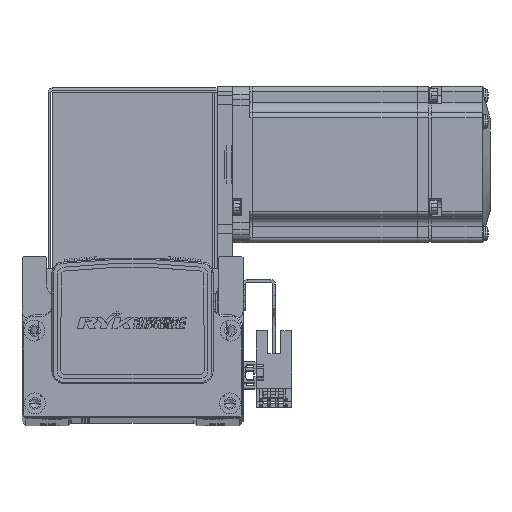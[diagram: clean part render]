
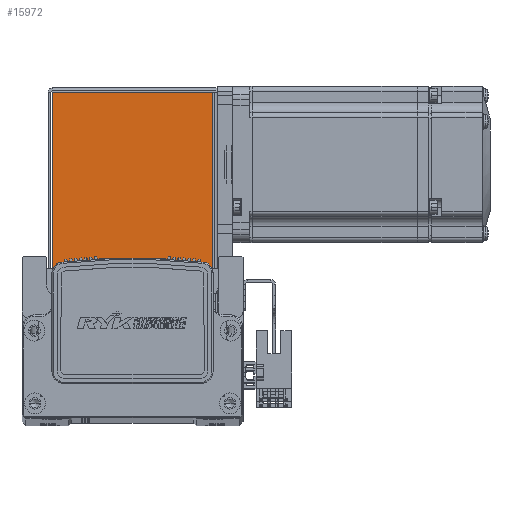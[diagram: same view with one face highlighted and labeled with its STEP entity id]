
A CAD part, top view. The second image highlights one B-rep face of the part: STEP entity #15972.
In plain terms, the highlighted planar face has unit normal (0, 0, 1) as drawn and (0, 0, -1) by its records, which use the part's own axes.
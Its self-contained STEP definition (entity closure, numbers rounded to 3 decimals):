
#8284 = LINE ( 'NONE', #24898, #8289 ) ;
#8289 = VECTOR ( 'NONE', #24889, 1000. ) ;
#8328 = LINE ( 'NONE', #24800, #8338 ) ;
#8338 = VECTOR ( 'NONE', #24808, 1000. ) ;
#9478 = LINE ( 'NONE', #24785, #9504 ) ;
#9504 = VECTOR ( 'NONE', #24791, 1000. ) ;
#9521 = VECTOR ( 'NONE', #24752, 1000. ) ;
#9524 = LINE ( 'NONE', #24733, #9521 ) ;
#9834 = EDGE_CURVE ( 'NONE', #28222, #28259, #9524, .T. ) ;
#9844 = EDGE_CURVE ( 'NONE', #28236, #28224, #9478, .T. ) ;
#9856 = EDGE_CURVE ( 'NONE', #28236, #28259, #8328, .T. ) ;
#9881 = EDGE_CURVE ( 'NONE', #28224, #28222, #8284, .T. ) ;
#12098 = CARTESIAN_POINT ( 'NONE',  ( -30.793, 68.5, -35. ) ) ;
#12142 = CARTESIAN_POINT ( 'NONE',  ( -30.793, 0.737, -35. ) ) ;
#12143 = CARTESIAN_POINT ( 'NONE',  ( 30.763, 68.5, -35. ) ) ;
#12215 = CARTESIAN_POINT ( 'NONE',  ( 30.763, 0.737, -35. ) ) ;
#13959 = EDGE_LOOP ( 'NONE', ( #44644, #44628, #44634, #44606 ) ) ;
#15972 = ADVANCED_FACE ( 'NONE', ( #79009 ), #71571, .F. ) ;
#24733 = CARTESIAN_POINT ( 'NONE',  ( 30.763, 68.5, -35. ) ) ;
#24752 = DIRECTION ( 'NONE',  ( 0., -1., 0. ) ) ;
#24785 = CARTESIAN_POINT ( 'NONE',  ( -30.793, 0., -35. ) ) ;
#24791 = DIRECTION ( 'NONE',  ( 0., 1., 0. ) ) ;
#24800 = CARTESIAN_POINT ( 'NONE',  ( 32.5, 0.737, -35. ) ) ;
#24808 = DIRECTION ( 'NONE',  ( 1., 0., 0. ) ) ;
#24889 = DIRECTION ( 'NONE',  ( 1., 0., 0. ) ) ;
#24898 = CARTESIAN_POINT ( 'NONE',  ( 0., 68.5, -35. ) ) ;
#28222 = VERTEX_POINT ( 'NONE', #12143 ) ;
#28224 = VERTEX_POINT ( 'NONE', #12098 ) ;
#28236 = VERTEX_POINT ( 'NONE', #12142 ) ;
#28259 = VERTEX_POINT ( 'NONE', #12215 ) ;
#44606 = ORIENTED_EDGE ( 'NONE', *, *, #9881, .T. ) ;
#44628 = ORIENTED_EDGE ( 'NONE', *, *, #9856, .F. ) ;
#44634 = ORIENTED_EDGE ( 'NONE', *, *, #9844, .T. ) ;
#44644 = ORIENTED_EDGE ( 'NONE', *, *, #9834, .T. ) ;
#55900 = AXIS2_PLACEMENT_3D ( 'NONE', #71577, #71579, #71613 ) ;
#71571 = PLANE ( 'NONE',  #55900 ) ;
#71577 = CARTESIAN_POINT ( 'NONE',  ( 0., 0., -35. ) ) ;
#71579 = DIRECTION ( 'NONE',  ( 0., 0., 1. ) ) ;
#71613 = DIRECTION ( 'NONE',  ( 0., -1., 0. ) ) ;
#79009 = FACE_OUTER_BOUND ( 'NONE', #13959, .T. ) ;
